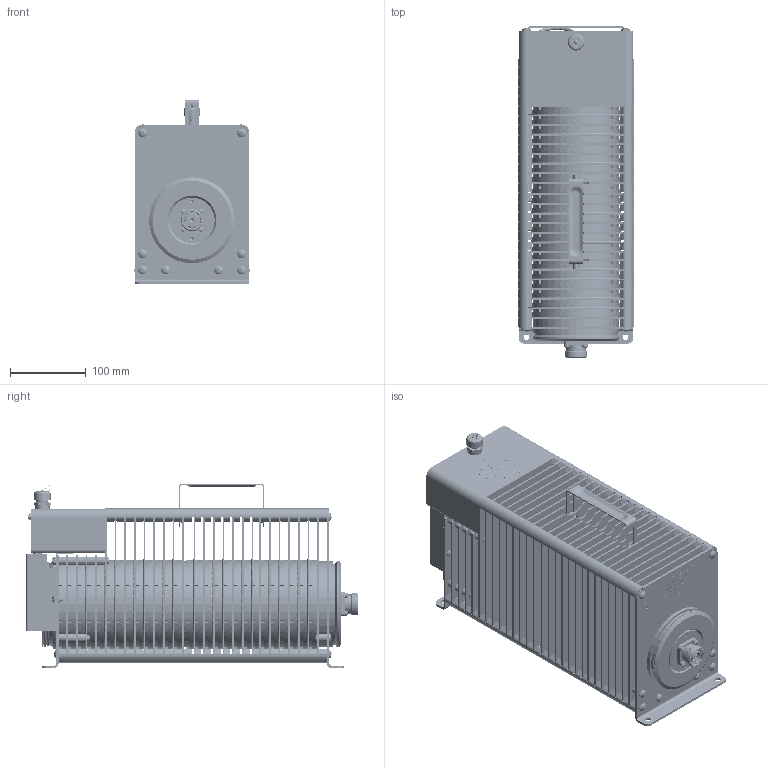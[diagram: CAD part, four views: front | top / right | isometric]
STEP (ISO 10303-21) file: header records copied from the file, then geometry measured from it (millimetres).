
FILE_DESCRIPTION(/* description */ ('Unknown'),/* implementation_level */ '2;1');
FILE_NAME(/* name */ '8251D7-16_RevP16_3DSTEP',/* time_stamp */ '2018-12-05T14:57:32-05:00',/* author */ ('Unknown'),/* organization */ ('Unknown'),/* preprocessor_version */ 'ST-DEVELOPER v16.7',/* originating_system */ 'DEX',/* authorisation */ $);
FILE_SCHEMA (('AUTOMOTIVE_DESIGN {1 0 10303 214 3 1 1}'));
Products named in the file (1): Part5
Bounding box: 152.32 x 436.89 x 242.52 mm (x, y, z)
Volume: 2620031.7 mm3; surface area: 2000545.9 mm2
Topology: 141 solids, 141 shells, 10267 faces, 30148 edges, 20581 vertices
Faces by surface type: plane 8428, cylinder 809, bspline 808, cone 164, sphere 31, torus 27
Full cylindrical faces by diameter (mm): 0.76 x1, 0.762 x1, 0.823 x1, 1.037 x1, 1.524 x1, 2.565 x8, 2.845 x8, 3.048 x1, 3.099 x1, 3.175 x1, 3.454 x4, 3.81 x1, 4.166 x8, 4.572 x4, 4.763 x3, 4.775 x2, 4.826 x20, 4.877 x3, 4.902 x1, 4.953 x1, 5.105 x40, 5.16 x1, 5.283 x1, 5.461 x1, 5.639 x2, 5.791 x6, 6.35 x146, 6.756 x1, 6.858 x4, 6.909 x1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
Entity records: 441949 total; most frequent: CARTESIAN_POINT 155961, ORIENTED_EDGE 58788, DIRECTION 47449, EDGE_CURVE 29394, VERTEX_POINT 20473, LINE 20261, VECTOR 20261, AXIS2_PLACEMENT_3D 13594
